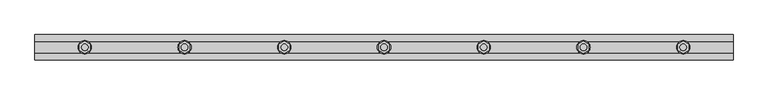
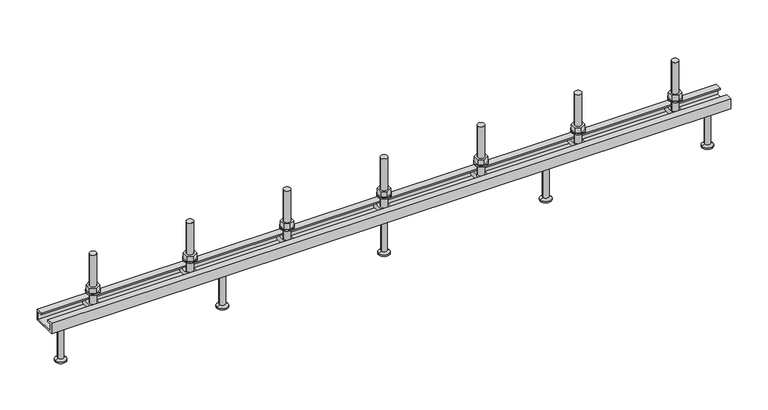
"""IFC4 building model written with IfcOpenShell, lengths in millimetres: fastener geometry, JTA-K JORDAHL® AnchorChannels : JTA-K L=1050 mm."""

from ifc_helpers import new_model, si_unit, point, frame, frame_2d, origin, place, context, project, spatial, polyline, circle_curve, trimmed, segment, composite_curve, outline, extrude, source, transform, mapped, element, save
from ifc_brep_helpers import plane_surface, cylinder_surface, revolved_surface, advanced_brep


def fastener_51e1c163(model_context):
    return source(origin(), model_context, "Body", "SolidModel", [
        extrude(outline(polyline([(825.0, 9.2376043), (833.0, 4.6188022), (833.0, -4.6188022), (825.0, -9.2376043), (817.0, -4.6188022), (817.0, 4.6188022), (825.0, 9.2376043)]), holes=[composite_curve([segment(trimmed(circle_curve(frame_2d((825.0, 0.0)), 5.0), [point((820.0, 0.0))], [point((830.0, 0.0))], True, "CARTESIAN"), True, "CONTINUOUS"), segment(trimmed(circle_curve(frame_2d((825.0, 0.0)), 5.0), [point((830.0, 0.0))], [point((820.0, 0.0))], True, "CARTESIAN"), True, "CONTINUOUS")], self_intersect=False)]), frame((0.0, 0.0, 17.0), z_axis=(0.0, 0.0, 1.0), x_axis=(1.0, 0.0, 0.0)), (0.0, 0.0, 1.0), 8.4),
        extrude(outline(composite_curve([segment(trimmed(circle_curve(frame_2d((825.0, 0.0)), 10.0), [point((815.0, 0.0))], [point((835.0, 0.0))], False, "CARTESIAN"), True, "CONTINUOUS"), segment(trimmed(circle_curve(frame_2d((825.0, 0.0)), 10.0), [point((835.0, 0.0))], [point((815.0, 0.0))], False, "CARTESIAN"), True, "CONTINUOUS")], self_intersect=False), holes=[composite_curve([segment(trimmed(circle_curve(frame_2d((825.0, 0.0)), 5.25), [point((819.75, 0.0))], [point((830.25, 0.0))], True, "CARTESIAN"), True, "CONTINUOUS"), segment(trimmed(circle_curve(frame_2d((825.0, 0.0)), 5.25), [point((830.25, 0.0))], [point((819.75, 0.0))], True, "CARTESIAN"), True, "CONTINUOUS")], self_intersect=False)]), frame((0.0, 0.0, 15.0), z_axis=(0.0, 0.0, 1.0), x_axis=(1.0, 0.0, 0.0)), (0.0, 0.0, 1.0), 2.0),
        extrude(outline(polyline([(675.0, 9.2376043), (683.0, 4.6188022), (683.0, -4.6188022), (675.0, -9.2376043), (667.0, -4.6188022), (667.0, 4.6188022), (675.0, 9.2376043)]), holes=[composite_curve([segment(trimmed(circle_curve(frame_2d((675.0, 0.0)), 5.0), [point((670.0, 0.0))], [point((680.0, 0.0))], True, "CARTESIAN"), True, "CONTINUOUS"), segment(trimmed(circle_curve(frame_2d((675.0, 0.0)), 5.0), [point((680.0, 0.0))], [point((670.0, 0.0))], True, "CARTESIAN"), True, "CONTINUOUS")], self_intersect=False)]), frame((0.0, 0.0, 17.0), z_axis=(0.0, 0.0, 1.0), x_axis=(1.0, 0.0, 0.0)), (0.0, 0.0, 1.0), 8.4),
        extrude(outline(composite_curve([segment(trimmed(circle_curve(frame_2d((675.0, 0.0)), 10.0), [point((665.0, 0.0))], [point((685.0, 0.0))], False, "CARTESIAN"), True, "CONTINUOUS"), segment(trimmed(circle_curve(frame_2d((675.0, 0.0)), 10.0), [point((685.0, 0.0))], [point((665.0, 0.0))], False, "CARTESIAN"), True, "CONTINUOUS")], self_intersect=False), holes=[composite_curve([segment(trimmed(circle_curve(frame_2d((675.0, 0.0)), 5.25), [point((669.75, 0.0))], [point((680.25, 0.0))], True, "CARTESIAN"), True, "CONTINUOUS"), segment(trimmed(circle_curve(frame_2d((675.0, 0.0)), 5.25), [point((680.25, 0.0))], [point((669.75, 0.0))], True, "CARTESIAN"), True, "CONTINUOUS")], self_intersect=False)]), frame((0.0, 0.0, 15.0), z_axis=(0.0, 0.0, 1.0), x_axis=(1.0, 0.0, 0.0)), (0.0, 0.0, 1.0), 2.0),
        extrude(outline(polyline([(525.0, 9.2376043), (533.0, 4.6188022), (533.0, -4.6188022), (525.0, -9.2376043), (517.0, -4.6188022), (517.0, 4.6188022), (525.0, 9.2376043)]), holes=[composite_curve([segment(trimmed(circle_curve(frame_2d((525.0, 0.0)), 5.0), [point((520.0, 0.0))], [point((530.0, 0.0))], True, "CARTESIAN"), True, "CONTINUOUS"), segment(trimmed(circle_curve(frame_2d((525.0, 0.0)), 5.0), [point((530.0, 0.0))], [point((520.0, 0.0))], True, "CARTESIAN"), True, "CONTINUOUS")], self_intersect=False)]), frame((0.0, 0.0, 17.0), z_axis=(0.0, 0.0, 1.0), x_axis=(1.0, 0.0, 0.0)), (0.0, 0.0, 1.0), 8.4),
        extrude(outline(composite_curve([segment(trimmed(circle_curve(frame_2d((525.0, 0.0)), 10.0), [point((515.0, 0.0))], [point((535.0, 0.0))], False, "CARTESIAN"), True, "CONTINUOUS"), segment(trimmed(circle_curve(frame_2d((525.0, 0.0)), 10.0), [point((535.0, 0.0))], [point((515.0, 0.0))], False, "CARTESIAN"), True, "CONTINUOUS")], self_intersect=False), holes=[composite_curve([segment(trimmed(circle_curve(frame_2d((525.0, 0.0)), 5.25), [point((519.75, 0.0))], [point((530.25, 0.0))], True, "CARTESIAN"), True, "CONTINUOUS"), segment(trimmed(circle_curve(frame_2d((525.0, 0.0)), 5.25), [point((530.25, 0.0))], [point((519.75, 0.0))], True, "CARTESIAN"), True, "CONTINUOUS")], self_intersect=False)]), frame((0.0, 0.0, 15.0), z_axis=(0.0, 0.0, 1.0), x_axis=(1.0, 0.0, 0.0)), (0.0, 0.0, 1.0), 2.0),
        extrude(outline(polyline([(375.0, 9.2376043), (383.0, 4.6188022), (383.0, -4.6188022), (375.0, -9.2376043), (367.0, -4.6188022), (367.0, 4.6188022), (375.0, 9.2376043)]), holes=[composite_curve([segment(trimmed(circle_curve(frame_2d((375.0, 0.0)), 5.0), [point((370.0, 0.0))], [point((380.0, 0.0))], True, "CARTESIAN"), True, "CONTINUOUS"), segment(trimmed(circle_curve(frame_2d((375.0, 0.0)), 5.0), [point((380.0, 0.0))], [point((370.0, 0.0))], True, "CARTESIAN"), True, "CONTINUOUS")], self_intersect=False)]), frame((0.0, 0.0, 17.0), z_axis=(0.0, 0.0, 1.0), x_axis=(1.0, 0.0, 0.0)), (0.0, 0.0, 1.0), 8.4),
        extrude(outline(composite_curve([segment(trimmed(circle_curve(frame_2d((375.0, 0.0)), 10.0), [point((365.0, 0.0))], [point((385.0, 0.0))], False, "CARTESIAN"), True, "CONTINUOUS"), segment(trimmed(circle_curve(frame_2d((375.0, 0.0)), 10.0), [point((385.0, 0.0))], [point((365.0, 0.0))], False, "CARTESIAN"), True, "CONTINUOUS")], self_intersect=False), holes=[composite_curve([segment(trimmed(circle_curve(frame_2d((375.0, 0.0)), 5.25), [point((369.75, 0.0))], [point((380.25, 0.0))], True, "CARTESIAN"), True, "CONTINUOUS"), segment(trimmed(circle_curve(frame_2d((375.0, 0.0)), 5.25), [point((380.25, 0.0))], [point((369.75, 0.0))], True, "CARTESIAN"), True, "CONTINUOUS")], self_intersect=False)]), frame((0.0, 0.0, 15.0), z_axis=(0.0, 0.0, 1.0), x_axis=(1.0, 0.0, 0.0)), (0.0, 0.0, 1.0), 2.0),
        extrude(outline(polyline([(225.0, 9.2376043), (233.0, 4.6188022), (233.0, -4.6188022), (225.0, -9.2376043), (217.0, -4.6188022), (217.0, 4.6188022), (225.0, 9.2376043)]), holes=[composite_curve([segment(trimmed(circle_curve(frame_2d((225.0, 0.0)), 5.0), [point((220.0, 0.0))], [point((230.0, 0.0))], True, "CARTESIAN"), True, "CONTINUOUS"), segment(trimmed(circle_curve(frame_2d((225.0, 0.0)), 5.0), [point((230.0, 0.0))], [point((220.0, 0.0))], True, "CARTESIAN"), True, "CONTINUOUS")], self_intersect=False)]), frame((0.0, 0.0, 17.0), z_axis=(0.0, 0.0, 1.0), x_axis=(1.0, 0.0, 0.0)), (0.0, 0.0, 1.0), 8.4),
        extrude(outline(composite_curve([segment(trimmed(circle_curve(frame_2d((225.0, 0.0)), 10.0), [point((215.0, 0.0))], [point((235.0, 0.0))], False, "CARTESIAN"), True, "CONTINUOUS"), segment(trimmed(circle_curve(frame_2d((225.0, 0.0)), 10.0), [point((235.0, 0.0))], [point((215.0, 0.0))], False, "CARTESIAN"), True, "CONTINUOUS")], self_intersect=False), holes=[composite_curve([segment(trimmed(circle_curve(frame_2d((225.0, 0.0)), 5.25), [point((219.75, 0.0))], [point((230.25, 0.0))], True, "CARTESIAN"), True, "CONTINUOUS"), segment(trimmed(circle_curve(frame_2d((225.0, 0.0)), 5.25), [point((230.25, 0.0))], [point((219.75, 0.0))], True, "CARTESIAN"), True, "CONTINUOUS")], self_intersect=False)]), frame((0.0, 0.0, 15.0), z_axis=(0.0, 0.0, 1.0), x_axis=(1.0, 0.0, 0.0)), (0.0, 0.0, 1.0), 2.0),
        advanced_brep(
        [(832.0, 16.0, -3.0), (832.0, -16.0, -3.0), (832.0, -16.0, -11.0), (832.0, 16.0, -11.0), (818.0, 16.0, -3.0), (818.0, 16.0, -11.0), (818.0, -16.0, -11.0), (818.0, -16.0, -3.0), (830.0, 0.0, -3.0), (820.0, 0.0, -3.0), (820.0, 0.0, 77.0), (830.0, 0.0, 77.0)],
        [
            (0, 1),
            (1, 2),
            (2, 3),
            (3, 0),
            (4, 5),
            (5, 6),
            (6, 7),
            (7, 4),
            (0, 4),
            (7, 1),
            (8, 9, circle_curve(frame((825.0, 0.0, -3.0), z_axis=(0.0, 0.0, -1.0), x_axis=(1.0, 0.0, 0.0)), 5.0)),
            (9, 8, circle_curve(frame((825.0, 0.0, -3.0), z_axis=(0.0, 0.0, -1.0), x_axis=(1.0, 0.0, 0.0)), 5.0)),
            (6, 2),
            (5, 3),
            (10, 11, circle_curve(frame((825.0, 0.0, 77.0), z_axis=(0.0, 0.0, 1.0), x_axis=(1.0, 0.0, 0.0)), 5.0)),
            (11, 10, circle_curve(frame((825.0, 0.0, 77.0), z_axis=(0.0, 0.0, 1.0), x_axis=(1.0, 0.0, 0.0)), 5.0)),
            (10, 9),
            (8, 11),
        ],
        [
            plane_surface(frame((832.0, -16.0, -3.0), z_axis=(1.0, 0.0, 0.0), x_axis=(0.0, -1.0, 0.0))),
            plane_surface(frame((818.0, -16.0, -3.0), z_axis=(-1.0, 0.0, 0.0), x_axis=(0.0, 1.0, 0.0))),
            plane_surface(frame((832.0, 16.0, -3.0), z_axis=(0.0, 0.0, 1.0), x_axis=(-1.0, 0.0, 0.0))),
            plane_surface(frame((832.0, -16.0, -3.0), z_axis=(0.0, -1.0, 0.0), x_axis=(-1.0, 0.0, 0.0))),
            plane_surface(frame((832.0, -16.0, -11.0), z_axis=(0.0, 0.0, -1.0), x_axis=(-1.0, 0.0, 0.0))),
            plane_surface(frame((832.0, 16.0, -11.0), z_axis=(0.0, 1.0, 0.0), x_axis=(-1.0, 0.0, 0.0))),
            plane_surface(frame((830.0, 0.0, 77.0), z_axis=(0.0, 0.0, 1.0), x_axis=(0.0, 1.0, 0.0))),
            cylinder_surface(frame((825.0, 0.0, -3.0), z_axis=(0.0, 0.0, 1.0), x_axis=(1.0, 0.0, 0.0)), 5.0),
        ],
        [
            (0, [[1, 2, 3, 4]]),
            (1, [[5, 6, 7, 8]]),
            (2, [[-1, 9, -8, 10], [11, 12]]),
            (3, [[-2, -10, -7, 13]]),
            (4, [[-3, -13, -6, 14]]),
            (5, [[-4, -14, -5, -9]]),
            (6, [[15, 16]]),
            (7, [[-15, 17, -11, 18]]),
            (7, [[-16, -18, -12, -17]]),
        ],
    ),
        advanced_brep(
        [(682.0, 16.0, -3.0), (682.0, -16.0, -3.0), (682.0, -16.0, -11.0), (682.0, 16.0, -11.0), (668.0, 16.0, -3.0), (668.0, 16.0, -11.0), (668.0, -16.0, -11.0), (668.0, -16.0, -3.0), (680.0, 0.0, -3.0), (670.0, 0.0, -3.0), (670.0, 0.0, 77.0), (680.0, 0.0, 77.0)],
        [
            (0, 1),
            (1, 2),
            (2, 3),
            (3, 0),
            (4, 5),
            (5, 6),
            (6, 7),
            (7, 4),
            (0, 4),
            (7, 1),
            (8, 9, circle_curve(frame((675.0, 0.0, -3.0), z_axis=(0.0, 0.0, -1.0), x_axis=(1.0, 0.0, 0.0)), 5.0)),
            (9, 8, circle_curve(frame((675.0, 0.0, -3.0), z_axis=(0.0, 0.0, -1.0), x_axis=(1.0, 0.0, 0.0)), 5.0)),
            (6, 2),
            (5, 3),
            (10, 11, circle_curve(frame((675.0, 0.0, 77.0), z_axis=(0.0, 0.0, 1.0), x_axis=(1.0, 0.0, 0.0)), 5.0)),
            (11, 10, circle_curve(frame((675.0, 0.0, 77.0), z_axis=(0.0, 0.0, 1.0), x_axis=(1.0, 0.0, 0.0)), 5.0)),
            (10, 9),
            (8, 11),
        ],
        [
            plane_surface(frame((682.0, -16.0, -3.0), z_axis=(1.0, 0.0, 0.0), x_axis=(0.0, -1.0, 0.0))),
            plane_surface(frame((668.0, -16.0, -3.0), z_axis=(-1.0, 0.0, 0.0), x_axis=(0.0, 1.0, 0.0))),
            plane_surface(frame((682.0, 16.0, -3.0), z_axis=(0.0, 0.0, 1.0), x_axis=(-1.0, 0.0, 0.0))),
            plane_surface(frame((682.0, -16.0, -3.0), z_axis=(0.0, -1.0, 0.0), x_axis=(-1.0, 0.0, 0.0))),
            plane_surface(frame((682.0, -16.0, -11.0), z_axis=(0.0, 0.0, -1.0), x_axis=(-1.0, 0.0, 0.0))),
            plane_surface(frame((682.0, 16.0, -11.0), z_axis=(0.0, 1.0, 0.0), x_axis=(-1.0, 0.0, 0.0))),
            plane_surface(frame((680.0, 0.0, 77.0), z_axis=(0.0, 0.0, 1.0), x_axis=(0.0, 1.0, 0.0))),
            cylinder_surface(frame((675.0, 0.0, -3.0), z_axis=(0.0, 0.0, 1.0), x_axis=(1.0, 0.0, 0.0)), 5.0),
        ],
        [
            (0, [[1, 2, 3, 4]]),
            (1, [[5, 6, 7, 8]]),
            (2, [[-1, 9, -8, 10], [11, 12]]),
            (3, [[-2, -10, -7, 13]]),
            (4, [[-3, -13, -6, 14]]),
            (5, [[-4, -14, -5, -9]]),
            (6, [[15, 16]]),
            (7, [[-15, 17, -11, 18]]),
            (7, [[-16, -18, -12, -17]]),
        ],
    ),
        advanced_brep(
        [(532.0, 16.0, -3.0), (532.0, -16.0, -3.0), (532.0, -16.0, -11.0), (532.0, 16.0, -11.0), (518.0, 16.0, -3.0), (518.0, 16.0, -11.0), (518.0, -16.0, -11.0), (518.0, -16.0, -3.0), (530.0, 0.0, -3.0), (520.0, 0.0, -3.0), (520.0, 0.0, 77.0), (530.0, 0.0, 77.0)],
        [
            (0, 1),
            (1, 2),
            (2, 3),
            (3, 0),
            (4, 5),
            (5, 6),
            (6, 7),
            (7, 4),
            (0, 4),
            (7, 1),
            (8, 9, circle_curve(frame((525.0, 0.0, -3.0), z_axis=(0.0, 0.0, -1.0), x_axis=(1.0, 0.0, 0.0)), 5.0)),
            (9, 8, circle_curve(frame((525.0, 0.0, -3.0), z_axis=(0.0, 0.0, -1.0), x_axis=(1.0, 0.0, 0.0)), 5.0)),
            (6, 2),
            (5, 3),
            (10, 11, circle_curve(frame((525.0, 0.0, 77.0), z_axis=(0.0, 0.0, 1.0), x_axis=(1.0, 0.0, 0.0)), 5.0)),
            (11, 10, circle_curve(frame((525.0, 0.0, 77.0), z_axis=(0.0, 0.0, 1.0), x_axis=(1.0, 0.0, 0.0)), 5.0)),
            (10, 9),
            (8, 11),
        ],
        [
            plane_surface(frame((532.0, -16.0, -3.0), z_axis=(1.0, 0.0, 0.0), x_axis=(0.0, -1.0, 0.0))),
            plane_surface(frame((518.0, -16.0, -3.0), z_axis=(-1.0, 0.0, 0.0), x_axis=(0.0, 1.0, 0.0))),
            plane_surface(frame((532.0, 16.0, -3.0), z_axis=(0.0, 0.0, 1.0), x_axis=(-1.0, 0.0, 0.0))),
            plane_surface(frame((532.0, -16.0, -3.0), z_axis=(0.0, -1.0, 0.0), x_axis=(-1.0, 0.0, 0.0))),
            plane_surface(frame((532.0, -16.0, -11.0), z_axis=(0.0, 0.0, -1.0), x_axis=(-1.0, 0.0, 0.0))),
            plane_surface(frame((532.0, 16.0, -11.0), z_axis=(0.0, 1.0, 0.0), x_axis=(-1.0, 0.0, 0.0))),
            plane_surface(frame((530.0, 0.0, 77.0), z_axis=(0.0, 0.0, 1.0), x_axis=(0.0, 1.0, 0.0))),
            cylinder_surface(frame((525.0, 0.0, -3.0), z_axis=(0.0, 0.0, 1.0), x_axis=(1.0, 0.0, 0.0)), 5.0),
        ],
        [
            (0, [[1, 2, 3, 4]]),
            (1, [[5, 6, 7, 8]]),
            (2, [[-1, 9, -8, 10], [11, 12]]),
            (3, [[-2, -10, -7, 13]]),
            (4, [[-3, -13, -6, 14]]),
            (5, [[-4, -14, -5, -9]]),
            (6, [[15, 16]]),
            (7, [[-15, 17, -11, 18]]),
            (7, [[-16, -18, -12, -17]]),
        ],
    ),
        advanced_brep(
        [(382.0, 16.0, -3.0), (382.0, -16.0, -3.0), (382.0, -16.0, -11.0), (382.0, 16.0, -11.0), (368.0, 16.0, -3.0), (368.0, 16.0, -11.0), (368.0, -16.0, -11.0), (368.0, -16.0, -3.0), (380.0, 0.0, -3.0), (370.0, 0.0, -3.0), (370.0, 0.0, 77.0), (380.0, 0.0, 77.0)],
        [
            (0, 1),
            (1, 2),
            (2, 3),
            (3, 0),
            (4, 5),
            (5, 6),
            (6, 7),
            (7, 4),
            (0, 4),
            (7, 1),
            (8, 9, circle_curve(frame((375.0, 0.0, -3.0), z_axis=(0.0, 0.0, -1.0), x_axis=(1.0, 0.0, 0.0)), 5.0)),
            (9, 8, circle_curve(frame((375.0, 0.0, -3.0), z_axis=(0.0, 0.0, -1.0), x_axis=(1.0, 0.0, 0.0)), 5.0)),
            (6, 2),
            (5, 3),
            (10, 11, circle_curve(frame((375.0, 0.0, 77.0), z_axis=(0.0, 0.0, 1.0), x_axis=(1.0, 0.0, 0.0)), 5.0)),
            (11, 10, circle_curve(frame((375.0, 0.0, 77.0), z_axis=(0.0, 0.0, 1.0), x_axis=(1.0, 0.0, 0.0)), 5.0)),
            (10, 9),
            (8, 11),
        ],
        [
            plane_surface(frame((382.0, -16.0, -3.0), z_axis=(1.0, 0.0, 0.0), x_axis=(0.0, -1.0, 0.0))),
            plane_surface(frame((368.0, -16.0, -3.0), z_axis=(-1.0, 0.0, 0.0), x_axis=(0.0, 1.0, 0.0))),
            plane_surface(frame((382.0, 16.0, -3.0), z_axis=(0.0, 0.0, 1.0), x_axis=(-1.0, 0.0, 0.0))),
            plane_surface(frame((382.0, -16.0, -3.0), z_axis=(0.0, -1.0, 0.0), x_axis=(-1.0, 0.0, 0.0))),
            plane_surface(frame((382.0, -16.0, -11.0), z_axis=(0.0, 0.0, -1.0), x_axis=(-1.0, 0.0, 0.0))),
            plane_surface(frame((382.0, 16.0, -11.0), z_axis=(0.0, 1.0, 0.0), x_axis=(-1.0, 0.0, 0.0))),
            plane_surface(frame((380.0, 0.0, 77.0), z_axis=(0.0, 0.0, 1.0), x_axis=(0.0, 1.0, 0.0))),
            cylinder_surface(frame((375.0, 0.0, -3.0), z_axis=(0.0, 0.0, 1.0), x_axis=(1.0, 0.0, 0.0)), 5.0),
        ],
        [
            (0, [[1, 2, 3, 4]]),
            (1, [[5, 6, 7, 8]]),
            (2, [[-1, 9, -8, 10], [11, 12]]),
            (3, [[-2, -10, -7, 13]]),
            (4, [[-3, -13, -6, 14]]),
            (5, [[-4, -14, -5, -9]]),
            (6, [[15, 16]]),
            (7, [[-15, 17, -11, 18]]),
            (7, [[-16, -18, -12, -17]]),
        ],
    ),
        advanced_brep(
        [(232.0, 16.0, -3.0), (232.0, -16.0, -3.0), (232.0, -16.0, -11.0), (232.0, 16.0, -11.0), (218.0, 16.0, -3.0), (218.0, 16.0, -11.0), (218.0, -16.0, -11.0), (218.0, -16.0, -3.0), (230.0, 0.0, -3.0), (220.0, 0.0, -3.0), (220.0, 0.0, 77.0), (230.0, 0.0, 77.0)],
        [
            (0, 1),
            (1, 2),
            (2, 3),
            (3, 0),
            (4, 5),
            (5, 6),
            (6, 7),
            (7, 4),
            (0, 4),
            (7, 1),
            (8, 9, circle_curve(frame((225.0, 0.0, -3.0), z_axis=(0.0, 0.0, -1.0), x_axis=(1.0, 0.0, 0.0)), 5.0)),
            (9, 8, circle_curve(frame((225.0, 0.0, -3.0), z_axis=(0.0, 0.0, -1.0), x_axis=(1.0, 0.0, 0.0)), 5.0)),
            (6, 2),
            (5, 3),
            (10, 11, circle_curve(frame((225.0, 0.0, 77.0), z_axis=(0.0, 0.0, 1.0), x_axis=(1.0, 0.0, 0.0)), 5.0)),
            (11, 10, circle_curve(frame((225.0, 0.0, 77.0), z_axis=(0.0, 0.0, 1.0), x_axis=(1.0, 0.0, 0.0)), 5.0)),
            (10, 9),
            (8, 11),
        ],
        [
            plane_surface(frame((232.0, -16.0, -3.0), z_axis=(1.0, 0.0, 0.0), x_axis=(0.0, -1.0, 0.0))),
            plane_surface(frame((218.0, -16.0, -3.0), z_axis=(-1.0, 0.0, 0.0), x_axis=(0.0, 1.0, 0.0))),
            plane_surface(frame((232.0, 16.0, -3.0), z_axis=(0.0, 0.0, 1.0), x_axis=(-1.0, 0.0, 0.0))),
            plane_surface(frame((232.0, -16.0, -3.0), z_axis=(0.0, -1.0, 0.0), x_axis=(-1.0, 0.0, 0.0))),
            plane_surface(frame((232.0, -16.0, -11.0), z_axis=(0.0, 0.0, -1.0), x_axis=(-1.0, 0.0, 0.0))),
            plane_surface(frame((232.0, 16.0, -11.0), z_axis=(0.0, 1.0, 0.0), x_axis=(-1.0, 0.0, 0.0))),
            plane_surface(frame((230.0, 0.0, 77.0), z_axis=(0.0, 0.0, 1.0), x_axis=(0.0, 1.0, 0.0))),
            cylinder_surface(frame((225.0, 0.0, -3.0), z_axis=(0.0, 0.0, 1.0), x_axis=(1.0, 0.0, 0.0)), 5.0),
        ],
        [
            (0, [[1, 2, 3, 4]]),
            (1, [[5, 6, 7, 8]]),
            (2, [[-1, 9, -8, 10], [11, 12]]),
            (3, [[-2, -10, -7, 13]]),
            (4, [[-3, -13, -6, 14]]),
            (5, [[-4, -14, -5, -9]]),
            (6, [[15, 16]]),
            (7, [[-15, 17, -11, 18]]),
            (7, [[-16, -18, -12, -17]]),
        ],
    ),
        advanced_brep(
        [(775.0, 0.0, -17.0), (788.5, 0.0, -17.0), (761.5, 0.0, -17.0), (766.5, 0.0, -80.0), (783.5, 0.0, -80.0), (775.0, 0.0, -80.0), (766.5, 0.0, -78.0), (783.5, 0.0, -78.0), (770.5, 0.0, -75.6905989), (779.5, 0.0, -75.6905989), (770.5, 0.0, -19.5), (779.5, 0.0, -19.5)],
        [
            (0, 1),
            (1, 2, circle_curve(frame((775.0, 0.0, -17.0), z_axis=(0.0, 0.0, 1.0), x_axis=(1.0, 0.0, 0.0)), 13.5)),
            (2, 0),
            (2, 1, circle_curve(frame((775.0, 0.0, -17.0), z_axis=(0.0, 0.0, 1.0), x_axis=(1.0, 0.0, 0.0)), 13.5)),
            (3, 4, circle_curve(frame((775.0, 0.0, -80.0), z_axis=(0.0, 0.0, -1.0), x_axis=(1.0, 0.0, 0.0)), 8.5)),
            (4, 5),
            (5, 3),
            (4, 3, circle_curve(frame((775.0, 0.0, -80.0), z_axis=(0.0, 0.0, -1.0), x_axis=(1.0, 0.0, 0.0)), 8.5)),
            (6, 7, circle_curve(frame((775.0, 0.0, -78.0), z_axis=(0.0, 0.0, -1.0), x_axis=(1.0, 0.0, 0.0)), 8.5)),
            (7, 4),
            (3, 6),
            (7, 6, circle_curve(frame((775.0, 0.0, -78.0), z_axis=(0.0, 0.0, -1.0), x_axis=(1.0, 0.0, 0.0)), 8.5)),
            (8, 9, circle_curve(frame((775.0, 0.0, -75.6905989), z_axis=(0.0, 0.0, -1.0), x_axis=(1.0, 0.0, 0.0)), 4.5)),
            (9, 7),
            (6, 8),
            (9, 8, circle_curve(frame((775.0, 0.0, -75.6905989), z_axis=(0.0, 0.0, -1.0), x_axis=(1.0, 0.0, 0.0)), 4.5)),
            (10, 11, circle_curve(frame((775.0, 0.0, -19.5), z_axis=(0.0, 0.0, -1.0), x_axis=(1.0, 0.0, 0.0)), 4.5)),
            (11, 9),
            (8, 10),
            (11, 10, circle_curve(frame((775.0, 0.0, -19.5), z_axis=(0.0, 0.0, -1.0), x_axis=(1.0, 0.0, 0.0)), 4.5)),
            (1, 11),
            (10, 2),
        ],
        [
            plane_surface(frame((775.0, 0.0, -17.0), z_axis=(0.0, 0.0, 1.0), x_axis=(1.0, 0.0, 0.0))),
            plane_surface(frame((775.0, 0.0, -80.0), z_axis=(0.0, 0.0, -1.0), x_axis=(1.0, 0.0, 0.0))),
            cylinder_surface(frame((775.0, 0.0, 2277.3150031), z_axis=(0.0, 0.0, 1.0), x_axis=(1.0, 0.0, 0.0)), 8.5),
            revolved_surface(polyline([(783.5, 0.0, -78.0), (779.5, 0.0, -75.6905989)]), (775.0, 0.0, 2277.3150031), (0.0, 0.0, 1.0)),
            cylinder_surface(frame((775.0, 0.0, 2277.3150031), z_axis=(0.0, 0.0, 1.0), x_axis=(1.0, 0.0, 0.0)), 4.5),
            revolved_surface(polyline([(779.5, 0.0, -19.5), (788.5, 0.0, -17.0)]), (775.0, 0.0, 2277.3150031), (0.0, 0.0, 1.0)),
        ],
        [
            (0, [[1, 2, 3]]),
            (0, [[-3, 4, -1]]),
            (1, [[5, 6, 7]]),
            (1, [[8, -7, -6]]),
            (2, [[9, 10, -5, 11]]),
            (2, [[12, -11, -8, -10]]),
            (3, [[13, 14, -9, 15]]),
            (3, [[16, -15, -12, -14]]),
            (4, [[17, 18, -13, 19]]),
            (4, [[20, -19, -16, -18]]),
            (5, [[-2, 21, -17, 22]]),
            (5, [[-4, -22, -20, -21]]),
        ],
    ),
        advanced_brep(
        [(525.0, 0.0, -17.0), (538.5, 0.0, -17.0), (511.5, 0.0, -17.0), (516.5, 0.0, -80.0), (533.5, 0.0, -80.0), (525.0, 0.0, -80.0), (516.5, 0.0, -78.0), (533.5, 0.0, -78.0), (520.5, 0.0, -75.6905989), (529.5, 0.0, -75.6905989), (520.5, 0.0, -19.5), (529.5, 0.0, -19.5)],
        [
            (0, 1),
            (1, 2, circle_curve(frame((525.0, 0.0, -17.0), z_axis=(0.0, 0.0, 1.0), x_axis=(1.0, 0.0, 0.0)), 13.5)),
            (2, 0),
            (2, 1, circle_curve(frame((525.0, 0.0, -17.0), z_axis=(0.0, 0.0, 1.0), x_axis=(1.0, 0.0, 0.0)), 13.5)),
            (3, 4, circle_curve(frame((525.0, 0.0, -80.0), z_axis=(0.0, 0.0, -1.0), x_axis=(1.0, 0.0, 0.0)), 8.5)),
            (4, 5),
            (5, 3),
            (4, 3, circle_curve(frame((525.0, 0.0, -80.0), z_axis=(0.0, 0.0, -1.0), x_axis=(1.0, 0.0, 0.0)), 8.5)),
            (6, 7, circle_curve(frame((525.0, 0.0, -78.0), z_axis=(0.0, 0.0, -1.0), x_axis=(1.0, 0.0, 0.0)), 8.5)),
            (7, 4),
            (3, 6),
            (7, 6, circle_curve(frame((525.0, 0.0, -78.0), z_axis=(0.0, 0.0, -1.0), x_axis=(1.0, 0.0, 0.0)), 8.5)),
            (8, 9, circle_curve(frame((525.0, 0.0, -75.6905989), z_axis=(0.0, 0.0, -1.0), x_axis=(1.0, 0.0, 0.0)), 4.5)),
            (9, 7),
            (6, 8),
            (9, 8, circle_curve(frame((525.0, 0.0, -75.6905989), z_axis=(0.0, 0.0, -1.0), x_axis=(1.0, 0.0, 0.0)), 4.5)),
            (10, 11, circle_curve(frame((525.0, 0.0, -19.5), z_axis=(0.0, 0.0, -1.0), x_axis=(1.0, 0.0, 0.0)), 4.5)),
            (11, 9),
            (8, 10),
            (11, 10, circle_curve(frame((525.0, 0.0, -19.5), z_axis=(0.0, 0.0, -1.0), x_axis=(1.0, 0.0, 0.0)), 4.5)),
            (1, 11),
            (10, 2),
        ],
        [
            plane_surface(frame((525.0, 0.0, -17.0), z_axis=(0.0, 0.0, 1.0), x_axis=(1.0, 0.0, 0.0))),
            plane_surface(frame((525.0, 0.0, -80.0), z_axis=(0.0, 0.0, -1.0), x_axis=(1.0, 0.0, 0.0))),
            cylinder_surface(frame((525.0, 0.0, 2277.3150031), z_axis=(0.0, 0.0, 1.0), x_axis=(1.0, 0.0, 0.0)), 8.5),
            revolved_surface(polyline([(533.5, 0.0, -78.0), (529.5, 0.0, -75.6905989)]), (525.0, 0.0, 2277.3150031), (0.0, 0.0, 1.0)),
            cylinder_surface(frame((525.0, 0.0, 2277.3150031), z_axis=(0.0, 0.0, 1.0), x_axis=(1.0, 0.0, 0.0)), 4.5),
            revolved_surface(polyline([(529.5, 0.0, -19.5), (538.5, 0.0, -17.0)]), (525.0, 0.0, 2277.3150031), (0.0, 0.0, 1.0)),
        ],
        [
            (0, [[1, 2, 3]]),
            (0, [[-3, 4, -1]]),
            (1, [[5, 6, 7]]),
            (1, [[8, -7, -6]]),
            (2, [[9, 10, -5, 11]]),
            (2, [[12, -11, -8, -10]]),
            (3, [[13, 14, -9, 15]]),
            (3, [[16, -15, -12, -14]]),
            (4, [[17, 18, -13, 19]]),
            (4, [[20, -19, -16, -18]]),
            (5, [[-2, 21, -17, 22]]),
            (5, [[-4, -22, -20, -21]]),
        ],
    ),
        advanced_brep(
        [(275.0, 0.0, -17.0), (288.5, 0.0, -17.0), (261.5, 0.0, -17.0), (266.5, 0.0, -80.0), (283.5, 0.0, -80.0), (275.0, 0.0, -80.0), (266.5, 0.0, -78.0), (283.5, 0.0, -78.0), (270.5, 0.0, -75.6905989), (279.5, 0.0, -75.6905989), (270.5, 0.0, -19.5), (279.5, 0.0, -19.5)],
        [
            (0, 1),
            (1, 2, circle_curve(frame((275.0, 0.0, -17.0), z_axis=(0.0, 0.0, 1.0), x_axis=(1.0, 0.0, 0.0)), 13.5)),
            (2, 0),
            (2, 1, circle_curve(frame((275.0, 0.0, -17.0), z_axis=(0.0, 0.0, 1.0), x_axis=(1.0, 0.0, 0.0)), 13.5)),
            (3, 4, circle_curve(frame((275.0, 0.0, -80.0), z_axis=(0.0, 0.0, -1.0), x_axis=(1.0, 0.0, 0.0)), 8.5)),
            (4, 5),
            (5, 3),
            (4, 3, circle_curve(frame((275.0, 0.0, -80.0), z_axis=(0.0, 0.0, -1.0), x_axis=(1.0, 0.0, 0.0)), 8.5)),
            (6, 7, circle_curve(frame((275.0, 0.0, -78.0), z_axis=(0.0, 0.0, -1.0), x_axis=(1.0, 0.0, 0.0)), 8.5)),
            (7, 4),
            (3, 6),
            (7, 6, circle_curve(frame((275.0, 0.0, -78.0), z_axis=(0.0, 0.0, -1.0), x_axis=(1.0, 0.0, 0.0)), 8.5)),
            (8, 9, circle_curve(frame((275.0, 0.0, -75.6905989), z_axis=(0.0, 0.0, -1.0), x_axis=(1.0, 0.0, 0.0)), 4.5)),
            (9, 7),
            (6, 8),
            (9, 8, circle_curve(frame((275.0, 0.0, -75.6905989), z_axis=(0.0, 0.0, -1.0), x_axis=(1.0, 0.0, 0.0)), 4.5)),
            (10, 11, circle_curve(frame((275.0, 0.0, -19.5), z_axis=(0.0, 0.0, -1.0), x_axis=(1.0, 0.0, 0.0)), 4.5)),
            (11, 9),
            (8, 10),
            (11, 10, circle_curve(frame((275.0, 0.0, -19.5), z_axis=(0.0, 0.0, -1.0), x_axis=(1.0, 0.0, 0.0)), 4.5)),
            (1, 11),
            (10, 2),
        ],
        [
            plane_surface(frame((275.0, 0.0, -17.0), z_axis=(0.0, 0.0, 1.0), x_axis=(1.0, 0.0, 0.0))),
            plane_surface(frame((275.0, 0.0, -80.0), z_axis=(0.0, 0.0, -1.0), x_axis=(1.0, 0.0, 0.0))),
            cylinder_surface(frame((275.0, 0.0, 2277.3150031), z_axis=(0.0, 0.0, 1.0), x_axis=(1.0, 0.0, 0.0)), 8.5),
            revolved_surface(polyline([(283.5, 0.0, -78.0), (279.5, 0.0, -75.6905989)]), (275.0, 0.0, 2277.3150031), (0.0, 0.0, 1.0)),
            cylinder_surface(frame((275.0, 0.0, 2277.3150031), z_axis=(0.0, 0.0, 1.0), x_axis=(1.0, 0.0, 0.0)), 4.5),
            revolved_surface(polyline([(279.5, 0.0, -19.5), (288.5, 0.0, -17.0)]), (275.0, 0.0, 2277.3150031), (0.0, 0.0, 1.0)),
        ],
        [
            (0, [[1, 2, 3]]),
            (0, [[-3, 4, -1]]),
            (1, [[5, 6, 7]]),
            (1, [[8, -7, -6]]),
            (2, [[9, 10, -5, 11]]),
            (2, [[12, -11, -8, -10]]),
            (3, [[13, 14, -9, 15]]),
            (3, [[16, -15, -12, -14]]),
            (4, [[17, 18, -13, 19]]),
            (4, [[20, -19, -16, -18]]),
            (5, [[-2, 21, -17, 22]]),
            (5, [[-4, -22, -20, -21]]),
        ],
    ),
        extrude(outline(polyline([(975.0, 9.2376043), (983.0, 4.6188022), (983.0, -4.6188022), (975.0, -9.2376043), (967.0, -4.6188022), (967.0, 4.6188022), (975.0, 9.2376043)]), holes=[composite_curve([segment(trimmed(circle_curve(frame_2d((975.0, 0.0)), 5.0), [point((970.0, 0.0))], [point((980.0, 0.0))], True, "CARTESIAN"), True, "CONTINUOUS"), segment(trimmed(circle_curve(frame_2d((975.0, 0.0)), 5.0), [point((980.0, 0.0))], [point((970.0, 0.0))], True, "CARTESIAN"), True, "CONTINUOUS")], self_intersect=False)]), frame((0.0, 0.0, 17.0), z_axis=(0.0, 0.0, 1.0), x_axis=(1.0, 0.0, 0.0)), (0.0, 0.0, 1.0), 8.4),
        extrude(outline(composite_curve([segment(trimmed(circle_curve(frame_2d((975.0, 0.0)), 10.0), [point((965.0, 0.0))], [point((985.0, 0.0))], False, "CARTESIAN"), True, "CONTINUOUS"), segment(trimmed(circle_curve(frame_2d((975.0, 0.0)), 10.0), [point((985.0, 0.0))], [point((965.0, 0.0))], False, "CARTESIAN"), True, "CONTINUOUS")], self_intersect=False), holes=[composite_curve([segment(trimmed(circle_curve(frame_2d((975.0, 0.0)), 5.25), [point((969.75, 0.0))], [point((980.25, 0.0))], True, "CARTESIAN"), True, "CONTINUOUS"), segment(trimmed(circle_curve(frame_2d((975.0, 0.0)), 5.25), [point((980.25, 0.0))], [point((969.75, 0.0))], True, "CARTESIAN"), True, "CONTINUOUS")], self_intersect=False)]), frame((0.0, 0.0, 15.0), z_axis=(0.0, 0.0, 1.0), x_axis=(1.0, 0.0, 0.0)), (0.0, 0.0, 1.0), 2.0),
        extrude(outline(polyline([(75.0, 9.2376043), (83.0, 4.6188022), (83.0, -4.6188022), (75.0, -9.2376043), (67.0, -4.6188022), (67.0, 4.6188022), (75.0, 9.2376043)]), holes=[composite_curve([segment(trimmed(circle_curve(frame_2d((75.0, 0.0)), 5.0), [point((70.0, 0.0))], [point((80.0, 0.0))], True, "CARTESIAN"), True, "CONTINUOUS"), segment(trimmed(circle_curve(frame_2d((75.0, 0.0)), 5.0), [point((80.0, 0.0))], [point((70.0, 0.0))], True, "CARTESIAN"), True, "CONTINUOUS")], self_intersect=False)]), frame((0.0, 0.0, 17.0), z_axis=(0.0, 0.0, 1.0), x_axis=(1.0, 0.0, 0.0)), (0.0, 0.0, 1.0), 8.4),
        extrude(outline(composite_curve([segment(trimmed(circle_curve(frame_2d((75.0, 0.0)), 10.0), [point((65.0, 0.0))], [point((85.0, 0.0))], False, "CARTESIAN"), True, "CONTINUOUS"), segment(trimmed(circle_curve(frame_2d((75.0, 0.0)), 10.0), [point((85.0, 0.0))], [point((65.0, 0.0))], False, "CARTESIAN"), True, "CONTINUOUS")], self_intersect=False), holes=[composite_curve([segment(trimmed(circle_curve(frame_2d((75.0, 0.0)), 5.25), [point((69.75, 0.0))], [point((80.25, 0.0))], True, "CARTESIAN"), True, "CONTINUOUS"), segment(trimmed(circle_curve(frame_2d((75.0, 0.0)), 5.25), [point((80.25, 0.0))], [point((69.75, 0.0))], True, "CARTESIAN"), True, "CONTINUOUS")], self_intersect=False)]), frame((0.0, 0.0, 15.0), z_axis=(0.0, 0.0, 1.0), x_axis=(1.0, 0.0, 0.0)), (0.0, 0.0, 1.0), 2.0),
        advanced_brep(
        [(982.0, 16.0, -3.0), (982.0, -16.0, -3.0), (982.0, -16.0, -11.0), (982.0, 16.0, -11.0), (968.0, 16.0, -3.0), (968.0, 16.0, -11.0), (968.0, -16.0, -11.0), (968.0, -16.0, -3.0), (980.0, 0.0, -3.0), (970.0, 0.0, -3.0), (970.0, 0.0, 77.0), (980.0, 0.0, 77.0)],
        [
            (0, 1),
            (1, 2),
            (2, 3),
            (3, 0),
            (4, 5),
            (5, 6),
            (6, 7),
            (7, 4),
            (0, 4),
            (7, 1),
            (8, 9, circle_curve(frame((975.0, 0.0, -3.0), z_axis=(0.0, 0.0, -1.0), x_axis=(1.0, 0.0, 0.0)), 5.0)),
            (9, 8, circle_curve(frame((975.0, 0.0, -3.0), z_axis=(0.0, 0.0, -1.0), x_axis=(1.0, 0.0, 0.0)), 5.0)),
            (6, 2),
            (5, 3),
            (10, 11, circle_curve(frame((975.0, 0.0, 77.0), z_axis=(0.0, 0.0, 1.0), x_axis=(1.0, 0.0, 0.0)), 5.0)),
            (11, 10, circle_curve(frame((975.0, 0.0, 77.0), z_axis=(0.0, 0.0, 1.0), x_axis=(1.0, 0.0, 0.0)), 5.0)),
            (10, 9),
            (8, 11),
        ],
        [
            plane_surface(frame((982.0, -16.0, -3.0), z_axis=(1.0, 0.0, 0.0), x_axis=(0.0, -1.0, 0.0))),
            plane_surface(frame((968.0, -16.0, -3.0), z_axis=(-1.0, 0.0, 0.0), x_axis=(0.0, 1.0, 0.0))),
            plane_surface(frame((982.0, 16.0, -3.0), z_axis=(0.0, 0.0, 1.0), x_axis=(-1.0, 0.0, 0.0))),
            plane_surface(frame((982.0, -16.0, -3.0), z_axis=(0.0, -1.0, 0.0), x_axis=(-1.0, 0.0, 0.0))),
            plane_surface(frame((982.0, -16.0, -11.0), z_axis=(0.0, 0.0, -1.0), x_axis=(-1.0, 0.0, 0.0))),
            plane_surface(frame((982.0, 16.0, -11.0), z_axis=(0.0, 1.0, 0.0), x_axis=(-1.0, 0.0, 0.0))),
            plane_surface(frame((980.0, 0.0, 77.0), z_axis=(0.0, 0.0, 1.0), x_axis=(0.0, 1.0, 0.0))),
            cylinder_surface(frame((975.0, 0.0, -3.0), z_axis=(0.0, 0.0, 1.0), x_axis=(1.0, 0.0, 0.0)), 5.0),
        ],
        [
            (0, [[1, 2, 3, 4]]),
            (1, [[5, 6, 7, 8]]),
            (2, [[-1, 9, -8, 10], [11, 12]]),
            (3, [[-2, -10, -7, 13]]),
            (4, [[-3, -13, -6, 14]]),
            (5, [[-4, -14, -5, -9]]),
            (6, [[15, 16]]),
            (7, [[-15, 17, -11, 18]]),
            (7, [[-16, -18, -12, -17]]),
        ],
    ),
        advanced_brep(
        [(82.0, 16.0, -3.0), (82.0, -16.0, -3.0), (82.0, -16.0, -11.0), (82.0, 16.0, -11.0), (68.0, 16.0, -3.0), (68.0, 16.0, -11.0), (68.0, -16.0, -11.0), (68.0, -16.0, -3.0), (80.0, 0.0, -3.0), (70.0, 0.0, -3.0), (70.0, 0.0, 77.0), (80.0, 0.0, 77.0)],
        [
            (0, 1),
            (1, 2),
            (2, 3),
            (3, 0),
            (4, 5),
            (5, 6),
            (6, 7),
            (7, 4),
            (0, 4),
            (7, 1),
            (8, 9, circle_curve(frame((75.0, 0.0, -3.0), z_axis=(0.0, 0.0, -1.0), x_axis=(1.0, 0.0, 0.0)), 5.0)),
            (9, 8, circle_curve(frame((75.0, 0.0, -3.0), z_axis=(0.0, 0.0, -1.0), x_axis=(1.0, 0.0, 0.0)), 5.0)),
            (6, 2),
            (5, 3),
            (10, 11, circle_curve(frame((75.0, 0.0, 77.0), z_axis=(0.0, 0.0, 1.0), x_axis=(1.0, 0.0, 0.0)), 5.0)),
            (11, 10, circle_curve(frame((75.0, 0.0, 77.0), z_axis=(0.0, 0.0, 1.0), x_axis=(1.0, 0.0, 0.0)), 5.0)),
            (10, 9),
            (8, 11),
        ],
        [
            plane_surface(frame((82.0, -16.0, -3.0), z_axis=(1.0, 0.0, 0.0), x_axis=(0.0, -1.0, 0.0))),
            plane_surface(frame((68.0, -16.0, -3.0), z_axis=(-1.0, 0.0, 0.0), x_axis=(0.0, 1.0, 0.0))),
            plane_surface(frame((82.0, 16.0, -3.0), z_axis=(0.0, 0.0, 1.0), x_axis=(-1.0, 0.0, 0.0))),
            plane_surface(frame((82.0, -16.0, -3.0), z_axis=(0.0, -1.0, 0.0), x_axis=(-1.0, 0.0, 0.0))),
            plane_surface(frame((82.0, -16.0, -11.0), z_axis=(0.0, 0.0, -1.0), x_axis=(-1.0, 0.0, 0.0))),
            plane_surface(frame((82.0, 16.0, -11.0), z_axis=(0.0, 1.0, 0.0), x_axis=(-1.0, 0.0, 0.0))),
            plane_surface(frame((80.0, 0.0, 77.0), z_axis=(0.0, 0.0, 1.0), x_axis=(0.0, 1.0, 0.0))),
            cylinder_surface(frame((75.0, 0.0, -3.0), z_axis=(0.0, 0.0, 1.0), x_axis=(1.0, 0.0, 0.0)), 5.0),
        ],
        [
            (0, [[1, 2, 3, 4]]),
            (1, [[5, 6, 7, 8]]),
            (2, [[-1, 9, -8, 10], [11, 12]]),
            (3, [[-2, -10, -7, 13]]),
            (4, [[-3, -13, -6, 14]]),
            (5, [[-4, -14, -5, -9]]),
            (6, [[15, 16]]),
            (7, [[-15, 17, -11, 18]]),
            (7, [[-16, -18, -12, -17]]),
        ],
    ),
        advanced_brep(
        [(1025.0, 0.0, -17.0), (1038.5, 0.0, -17.0), (1011.5, 0.0, -17.0), (1016.5, 0.0, -80.0), (1033.5, 0.0, -80.0), (1025.0, 0.0, -80.0), (1016.5, 0.0, -78.0), (1033.5, 0.0, -78.0), (1020.5, 0.0, -75.6905989), (1029.5, 0.0, -75.6905989), (1020.5, 0.0, -19.5), (1029.5, 0.0, -19.5)],
        [
            (0, 1),
            (1, 2, circle_curve(frame((1025.0, 0.0, -17.0), z_axis=(0.0, 0.0, 1.0), x_axis=(1.0, 0.0, 0.0)), 13.5)),
            (2, 0),
            (2, 1, circle_curve(frame((1025.0, 0.0, -17.0), z_axis=(0.0, 0.0, 1.0), x_axis=(1.0, 0.0, 0.0)), 13.5)),
            (3, 4, circle_curve(frame((1025.0, 0.0, -80.0), z_axis=(0.0, 0.0, -1.0), x_axis=(1.0, 0.0, 0.0)), 8.5)),
            (4, 5),
            (5, 3),
            (4, 3, circle_curve(frame((1025.0, 0.0, -80.0), z_axis=(0.0, 0.0, -1.0), x_axis=(1.0, 0.0, 0.0)), 8.5)),
            (6, 7, circle_curve(frame((1025.0, 0.0, -78.0), z_axis=(0.0, 0.0, -1.0), x_axis=(1.0, 0.0, 0.0)), 8.5)),
            (7, 4),
            (3, 6),
            (7, 6, circle_curve(frame((1025.0, 0.0, -78.0), z_axis=(0.0, 0.0, -1.0), x_axis=(1.0, 0.0, 0.0)), 8.5)),
            (8, 9, circle_curve(frame((1025.0, 0.0, -75.6905989), z_axis=(0.0, 0.0, -1.0), x_axis=(1.0, 0.0, 0.0)), 4.5)),
            (9, 7),
            (6, 8),
            (9, 8, circle_curve(frame((1025.0, 0.0, -75.6905989), z_axis=(0.0, 0.0, -1.0), x_axis=(1.0, 0.0, 0.0)), 4.5)),
            (10, 11, circle_curve(frame((1025.0, 0.0, -19.5), z_axis=(0.0, 0.0, -1.0), x_axis=(1.0, 0.0, 0.0)), 4.5)),
            (11, 9),
            (8, 10),
            (11, 10, circle_curve(frame((1025.0, 0.0, -19.5), z_axis=(0.0, 0.0, -1.0), x_axis=(1.0, 0.0, 0.0)), 4.5)),
            (1, 11),
            (10, 2),
        ],
        [
            plane_surface(frame((1025.0, 0.0, -17.0), z_axis=(0.0, 0.0, 1.0), x_axis=(1.0, 0.0, 0.0))),
            plane_surface(frame((1025.0, 0.0, -80.0), z_axis=(0.0, 0.0, -1.0), x_axis=(1.0, 0.0, 0.0))),
            cylinder_surface(frame((1025.0, 0.0, 2277.3150031), z_axis=(0.0, 0.0, 1.0), x_axis=(1.0, 0.0, 0.0)), 8.5),
            revolved_surface(polyline([(1033.5, 0.0, -78.0), (1029.5, 0.0, -75.6905989)]), (1025.0, 0.0, 2277.3150031), (0.0, 0.0, 1.0)),
            cylinder_surface(frame((1025.0, 0.0, 2277.3150031), z_axis=(0.0, 0.0, 1.0), x_axis=(1.0, 0.0, 0.0)), 4.5),
            revolved_surface(polyline([(1029.5, 0.0, -19.5), (1038.5, 0.0, -17.0)]), (1025.0, 0.0, 2277.3150031), (0.0, 0.0, 1.0)),
        ],
        [
            (0, [[1, 2, 3]]),
            (0, [[-3, 4, -1]]),
            (1, [[5, 6, 7]]),
            (1, [[8, -7, -6]]),
            (2, [[9, 10, -5, 11]]),
            (2, [[12, -11, -8, -10]]),
            (3, [[13, 14, -9, 15]]),
            (3, [[16, -15, -12, -14]]),
            (4, [[17, 18, -13, 19]]),
            (4, [[20, -19, -16, -18]]),
            (5, [[-2, 21, -17, 22]]),
            (5, [[-4, -22, -20, -21]]),
        ],
    ),
        advanced_brep(
        [(25.0, 0.0, -17.0), (38.5, 0.0, -17.0), (11.5, 0.0, -17.0), (16.5, 0.0, -80.0), (33.5, 0.0, -80.0), (25.0, 0.0, -80.0), (16.5, 0.0, -78.0), (33.5, 0.0, -78.0), (20.5, 0.0, -75.6905989), (29.5, 0.0, -75.6905989), (20.5, 0.0, -19.5), (29.5, 0.0, -19.5)],
        [
            (0, 1),
            (1, 2, circle_curve(frame((25.0, 0.0, -17.0), z_axis=(0.0, 0.0, 1.0), x_axis=(1.0, 0.0, 0.0)), 13.5)),
            (2, 0),
            (2, 1, circle_curve(frame((25.0, 0.0, -17.0), z_axis=(0.0, 0.0, 1.0), x_axis=(1.0, 0.0, 0.0)), 13.5)),
            (3, 4, circle_curve(frame((25.0, 0.0, -80.0), z_axis=(0.0, 0.0, -1.0), x_axis=(1.0, 0.0, 0.0)), 8.5)),
            (4, 5),
            (5, 3),
            (4, 3, circle_curve(frame((25.0, 0.0, -80.0), z_axis=(0.0, 0.0, -1.0), x_axis=(1.0, 0.0, 0.0)), 8.5)),
            (6, 7, circle_curve(frame((25.0, 0.0, -78.0), z_axis=(0.0, 0.0, -1.0), x_axis=(1.0, 0.0, 0.0)), 8.5)),
            (7, 4),
            (3, 6),
            (7, 6, circle_curve(frame((25.0, 0.0, -78.0), z_axis=(0.0, 0.0, -1.0), x_axis=(1.0, 0.0, 0.0)), 8.5)),
            (8, 9, circle_curve(frame((25.0, 0.0, -75.6905989), z_axis=(0.0, 0.0, -1.0), x_axis=(1.0, 0.0, 0.0)), 4.5)),
            (9, 7),
            (6, 8),
            (9, 8, circle_curve(frame((25.0, 0.0, -75.6905989), z_axis=(0.0, 0.0, -1.0), x_axis=(1.0, 0.0, 0.0)), 4.5)),
            (10, 11, circle_curve(frame((25.0, 0.0, -19.5), z_axis=(0.0, 0.0, -1.0), x_axis=(1.0, 0.0, 0.0)), 4.5)),
            (11, 9),
            (8, 10),
            (11, 10, circle_curve(frame((25.0, 0.0, -19.5), z_axis=(0.0, 0.0, -1.0), x_axis=(1.0, 0.0, 0.0)), 4.5)),
            (1, 11),
            (10, 2),
        ],
        [
            plane_surface(frame((25.0, 0.0, -17.0), z_axis=(0.0, 0.0, 1.0), x_axis=(1.0, 0.0, 0.0))),
            plane_surface(frame((25.0, 0.0, -80.0), z_axis=(0.0, 0.0, -1.0), x_axis=(1.0, 0.0, 0.0))),
            cylinder_surface(frame((25.0, 0.0, 2277.3150031), z_axis=(0.0, 0.0, 1.0), x_axis=(1.0, 0.0, 0.0)), 8.5),
            revolved_surface(polyline([(33.5, 0.0, -78.0), (29.5, 0.0, -75.6905989)]), (25.0, 0.0, 2277.3150031), (0.0, 0.0, 1.0)),
            cylinder_surface(frame((25.0, 0.0, 2277.3150031), z_axis=(0.0, 0.0, 1.0), x_axis=(1.0, 0.0, 0.0)), 4.5),
            revolved_surface(polyline([(29.5, 0.0, -19.5), (38.5, 0.0, -17.0)]), (25.0, 0.0, 2277.3150031), (0.0, 0.0, 1.0)),
        ],
        [
            (0, [[1, 2, 3]]),
            (0, [[-3, 4, -1]]),
            (1, [[5, 6, 7]]),
            (1, [[8, -7, -6]]),
            (2, [[9, 10, -5, 11]]),
            (2, [[12, -11, -8, -10]]),
            (3, [[13, 14, -9, 15]]),
            (3, [[16, -15, -12, -14]]),
            (4, [[17, 18, -13, 19]]),
            (4, [[20, -19, -16, -18]]),
            (5, [[-2, 21, -17, 22]]),
            (5, [[-4, -22, -20, -21]]),
        ],
    ),
        extrude(outline(polyline([(19.0, 0.0), (19.0, -17.0), (-19.0, -17.0), (-19.0, 0.0), (-9.0, 0.0), (-9.0, -3.0), (-16.0, -3.0), (-16.0, -14.0), (16.0, -14.0), (16.0, -3.0), (9.0, -3.0), (9.0, 0.0), (19.0, 0.0)])), frame((0.0, 0.0, 0.0), z_axis=(1.0, 0.0, 0.0), x_axis=(0.0, 1.0, 0.0)), (0.0, 0.0, 1.0), 1050.0),
    ])


if __name__ == "__main__":
    model = new_model("IFC4")
    model_context = context("Model", 3, world=origin())
    ifc_project = project(units=[si_unit("LENGTHUNIT", "METRE", prefix="MILLI")], contexts=[model_context])
    site = spatial("IfcSite", under=ifc_project)
    building = spatial("IfcBuilding", under=site)
    placement = place(None, origin())
    fastener_shape = fastener_51e1c163(model_context)
    element("IfcFastener", 1, ObjectType="JTA-K JORDAHL® AnchorChannels : JTA-K L=1050 mm", at=placement, inside=building, context=model_context, shape_type="MappedRepresentation", body=[
        mapped(fastener_shape, transform((0.0, 0.0, 0.0), x_axis=(1.0, 0.0, 0.0), y_axis=(0.0, 1.0, 0.0), z_axis=(0.0, 0.0, 1.0))),
    ])
    save(model, "model.ifc")
